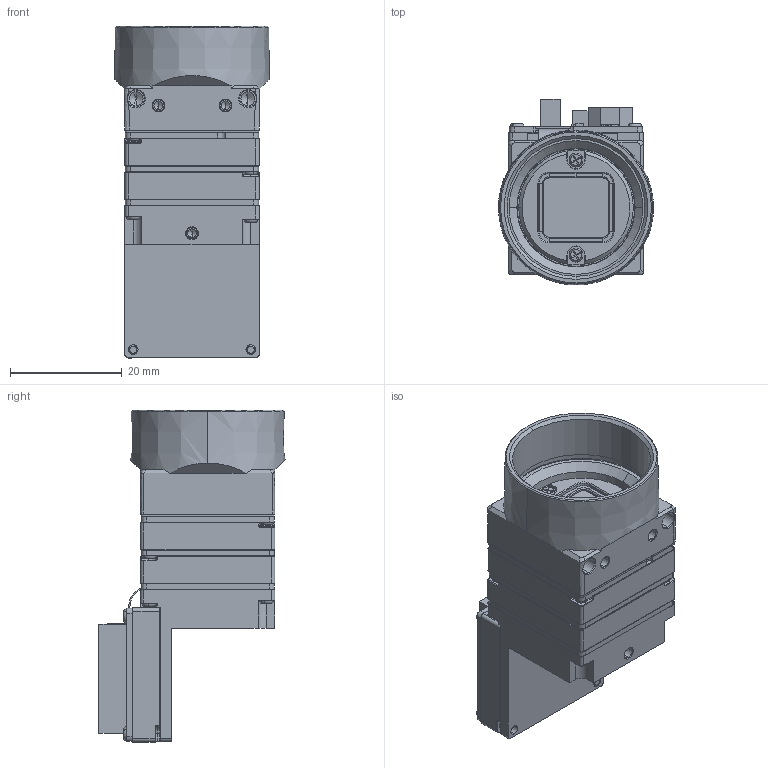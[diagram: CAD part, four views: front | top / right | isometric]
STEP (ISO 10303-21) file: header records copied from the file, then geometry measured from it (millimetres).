
FILE_DESCRIPTION (( 'STEP AP203' ), '1' );
FILE_NAME ('408-379-A_FFC_90.STEP', '2023-03-02T09:07:57', ( '' ), ( '' ), 'SwSTEP 2.0', 'SolidWorks 2021', '' );
FILE_SCHEMA (( 'CONFIG_CONTROL_DESIGN' ));
Length unit declared in the file: millimetre
Products named in the file (1): 408-379-A_FFC_90
Bounding box: 27.72 x 33.29 x 59.35 mm (x, y, z)
Volume: 11613.2 mm3; surface area: 20407.5 mm2
Topology: 71 solids, 71 shells, 4835 faces, 12326 edges, 7484 vertices
Faces by surface type: plane 2589, cylinder 1297, cone 381, bspline 335, torus 165, sphere 68
Entity records: 148911 total; most frequent: CARTESIAN_POINT 34056, ORIENTED_EDGE 24132, DIRECTION 23501, EDGE_CURVE 12066, LINE 8229, VECTOR 8229, AXIS2_PLACEMENT_3D 7636, VERTEX_POINT 7476
